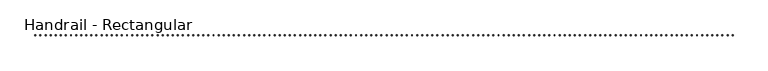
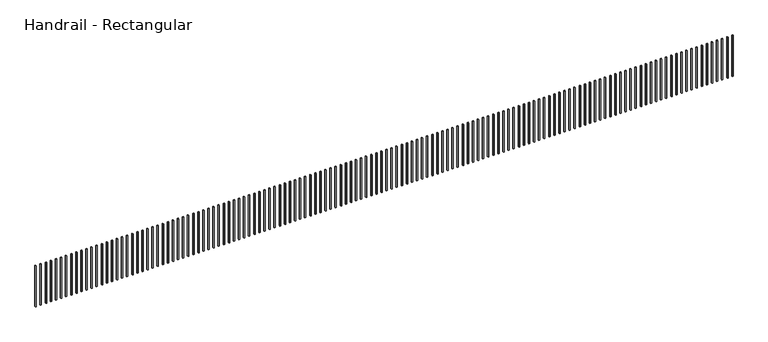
"""IFC4 building model written with IfcOpenShell, lengths in millimetres: railing geometry, Handrail - Rectangular."""

from ifc_helpers import new_model, si_unit, frame, origin, place, context, project, spatial, polyline, outline, extrude, source, transform, mapped, element, save


def handrail_rectangular_f3f7196c(model_context):
    return source(origin(), model_context, "Body", "SweptSolid", [
        extrude(outline(polyline([(15541.5691649, 4066.7725872), (15541.5691649, 4085.8225872), (15560.6191649, 4085.8225872), (15560.6191649, 4066.7725872), (15541.5691649, 4066.7725872)])), frame((0.0, 0.0, 3657.6), z_axis=(0.0, 0.0, 1.0), x_axis=(1.0, 0.0, 0.0)), (0.0, 0.0, 1.0), 863.6),
        extrude(outline(polyline([(15439.9691649, 4066.7725872), (15439.9691649, 4085.8225872), (15459.0191649, 4085.8225872), (15459.0191649, 4066.7725872), (15439.9691649, 4066.7725872)])), frame((0.0, 0.0, 3657.6), z_axis=(0.0, 0.0, 1.0), x_axis=(1.0, 0.0, 0.0)), (0.0, 0.0, 1.0), 863.6),
        extrude(outline(polyline([(15338.3691649, 4066.7725872), (15338.3691649, 4085.8225872), (15357.4191649, 4085.8225872), (15357.4191649, 4066.7725872), (15338.3691649, 4066.7725872)])), frame((0.0, 0.0, 3657.6), z_axis=(0.0, 0.0, 1.0), x_axis=(1.0, 0.0, 0.0)), (0.0, 0.0, 1.0), 863.6),
        extrude(outline(polyline([(15236.7691649, 4066.7725872), (15236.7691649, 4085.8225872), (15255.8191649, 4085.8225872), (15255.8191649, 4066.7725872), (15236.7691649, 4066.7725872)])), frame((0.0, 0.0, 3657.6), z_axis=(0.0, 0.0, 1.0), x_axis=(1.0, 0.0, 0.0)), (0.0, 0.0, 1.0), 863.6),
        extrude(outline(polyline([(15135.1691649, 4066.7725872), (15135.1691649, 4085.8225872), (15154.2191649, 4085.8225872), (15154.2191649, 4066.7725872), (15135.1691649, 4066.7725872)])), frame((0.0, 0.0, 3657.6), z_axis=(0.0, 0.0, 1.0), x_axis=(1.0, 0.0, 0.0)), (0.0, 0.0, 1.0), 863.6),
        extrude(outline(polyline([(15033.5691649, 4066.7725872), (15033.5691649, 4085.8225872), (15052.6191649, 4085.8225872), (15052.6191649, 4066.7725872), (15033.5691649, 4066.7725872)])), frame((0.0, 0.0, 3657.6), z_axis=(0.0, 0.0, 1.0), x_axis=(1.0, 0.0, 0.0)), (0.0, 0.0, 1.0), 863.6),
        extrude(outline(polyline([(14931.9691649, 4066.7725872), (14931.9691649, 4085.8225872), (14951.0191649, 4085.8225872), (14951.0191649, 4066.7725872), (14931.9691649, 4066.7725872)])), frame((0.0, 0.0, 3657.6), z_axis=(0.0, 0.0, 1.0), x_axis=(1.0, 0.0, 0.0)), (0.0, 0.0, 1.0), 863.6),
        extrude(outline(polyline([(14830.3691649, 4066.7725872), (14830.3691649, 4085.8225872), (14849.4191649, 4085.8225872), (14849.4191649, 4066.7725872), (14830.3691649, 4066.7725872)])), frame((0.0, 0.0, 3657.6), z_axis=(0.0, 0.0, 1.0), x_axis=(1.0, 0.0, 0.0)), (0.0, 0.0, 1.0), 863.6),
        extrude(outline(polyline([(14728.7691649, 4066.7725872), (14728.7691649, 4085.8225872), (14747.8191649, 4085.8225872), (14747.8191649, 4066.7725872), (14728.7691649, 4066.7725872)])), frame((0.0, 0.0, 3657.6), z_axis=(0.0, 0.0, 1.0), x_axis=(1.0, 0.0, 0.0)), (0.0, 0.0, 1.0), 863.6),
        extrude(outline(polyline([(14627.1691649, 4066.7725872), (14627.1691649, 4085.8225872), (14646.2191649, 4085.8225872), (14646.2191649, 4066.7725872), (14627.1691649, 4066.7725872)])), frame((0.0, 0.0, 3657.6), z_axis=(0.0, 0.0, 1.0), x_axis=(1.0, 0.0, 0.0)), (0.0, 0.0, 1.0), 863.6),
        extrude(outline(polyline([(14525.5691649, 4066.7725872), (14525.5691649, 4085.8225872), (14544.6191649, 4085.8225872), (14544.6191649, 4066.7725872), (14525.5691649, 4066.7725872)])), frame((0.0, 0.0, 3657.6), z_axis=(0.0, 0.0, 1.0), x_axis=(1.0, 0.0, 0.0)), (0.0, 0.0, 1.0), 863.6),
        extrude(outline(polyline([(14423.9691649, 4066.7725872), (14423.9691649, 4085.8225872), (14443.0191649, 4085.8225872), (14443.0191649, 4066.7725872), (14423.9691649, 4066.7725872)])), frame((0.0, 0.0, 3657.6), z_axis=(0.0, 0.0, 1.0), x_axis=(1.0, 0.0, 0.0)), (0.0, 0.0, 1.0), 863.6),
        extrude(outline(polyline([(14322.3691649, 4066.7725872), (14322.3691649, 4085.8225872), (14341.4191649, 4085.8225872), (14341.4191649, 4066.7725872), (14322.3691649, 4066.7725872)])), frame((0.0, 0.0, 3657.6), z_axis=(0.0, 0.0, 1.0), x_axis=(1.0, 0.0, 0.0)), (0.0, 0.0, 1.0), 863.6),
        extrude(outline(polyline([(14220.7691649, 4066.7725872), (14220.7691649, 4085.8225872), (14239.8191649, 4085.8225872), (14239.8191649, 4066.7725872), (14220.7691649, 4066.7725872)])), frame((0.0, 0.0, 3657.6), z_axis=(0.0, 0.0, 1.0), x_axis=(1.0, 0.0, 0.0)), (0.0, 0.0, 1.0), 863.6),
        extrude(outline(polyline([(14119.1691649, 4066.7725872), (14119.1691649, 4085.8225872), (14138.2191649, 4085.8225872), (14138.2191649, 4066.7725872), (14119.1691649, 4066.7725872)])), frame((0.0, 0.0, 3657.6), z_axis=(0.0, 0.0, 1.0), x_axis=(1.0, 0.0, 0.0)), (0.0, 0.0, 1.0), 863.6),
        extrude(outline(polyline([(14017.5691649, 4066.7725872), (14017.5691649, 4085.8225872), (14036.6191649, 4085.8225872), (14036.6191649, 4066.7725872), (14017.5691649, 4066.7725872)])), frame((0.0, 0.0, 3657.6), z_axis=(0.0, 0.0, 1.0), x_axis=(1.0, 0.0, 0.0)), (0.0, 0.0, 1.0), 863.6),
        extrude(outline(polyline([(13915.9691649, 4066.7725872), (13915.9691649, 4085.8225872), (13935.0191649, 4085.8225872), (13935.0191649, 4066.7725872), (13915.9691649, 4066.7725872)])), frame((0.0, 0.0, 3657.6), z_axis=(0.0, 0.0, 1.0), x_axis=(1.0, 0.0, 0.0)), (0.0, 0.0, 1.0), 863.6),
        extrude(outline(polyline([(13814.3691649, 4066.7725872), (13814.3691649, 4085.8225872), (13833.4191649, 4085.8225872), (13833.4191649, 4066.7725872), (13814.3691649, 4066.7725872)])), frame((0.0, 0.0, 3657.6), z_axis=(0.0, 0.0, 1.0), x_axis=(1.0, 0.0, 0.0)), (0.0, 0.0, 1.0), 863.6),
        extrude(outline(polyline([(13712.7691649, 4066.7725872), (13712.7691649, 4085.8225872), (13731.8191649, 4085.8225872), (13731.8191649, 4066.7725872), (13712.7691649, 4066.7725872)])), frame((0.0, 0.0, 3657.6), z_axis=(0.0, 0.0, 1.0), x_axis=(1.0, 0.0, 0.0)), (0.0, 0.0, 1.0), 863.6),
        extrude(outline(polyline([(13611.1691649, 4066.7725872), (13611.1691649, 4085.8225872), (13630.2191649, 4085.8225872), (13630.2191649, 4066.7725872), (13611.1691649, 4066.7725872)])), frame((0.0, 0.0, 3657.6), z_axis=(0.0, 0.0, 1.0), x_axis=(1.0, 0.0, 0.0)), (0.0, 0.0, 1.0), 863.6),
        extrude(outline(polyline([(13509.5691649, 4066.7725872), (13509.5691649, 4085.8225872), (13528.6191649, 4085.8225872), (13528.6191649, 4066.7725872), (13509.5691649, 4066.7725872)])), frame((0.0, 0.0, 3657.6), z_axis=(0.0, 0.0, 1.0), x_axis=(1.0, 0.0, 0.0)), (0.0, 0.0, 1.0), 863.6),
        extrude(outline(polyline([(13407.9691649, 4066.7725872), (13407.9691649, 4085.8225872), (13427.0191649, 4085.8225872), (13427.0191649, 4066.7725872), (13407.9691649, 4066.7725872)])), frame((0.0, 0.0, 3657.6), z_axis=(0.0, 0.0, 1.0), x_axis=(1.0, 0.0, 0.0)), (0.0, 0.0, 1.0), 863.6),
        extrude(outline(polyline([(13306.3691649, 4066.7725872), (13306.3691649, 4085.8225872), (13325.4191649, 4085.8225872), (13325.4191649, 4066.7725872), (13306.3691649, 4066.7725872)])), frame((0.0, 0.0, 3657.6), z_axis=(0.0, 0.0, 1.0), x_axis=(1.0, 0.0, 0.0)), (0.0, 0.0, 1.0), 863.6),
        extrude(outline(polyline([(13204.7691649, 4066.7725872), (13204.7691649, 4085.8225872), (13223.8191649, 4085.8225872), (13223.8191649, 4066.7725872), (13204.7691649, 4066.7725872)])), frame((0.0, 0.0, 3657.6), z_axis=(0.0, 0.0, 1.0), x_axis=(1.0, 0.0, 0.0)), (0.0, 0.0, 1.0), 863.6),
        extrude(outline(polyline([(13103.1691649, 4066.7725872), (13103.1691649, 4085.8225872), (13122.2191649, 4085.8225872), (13122.2191649, 4066.7725872), (13103.1691649, 4066.7725872)])), frame((0.0, 0.0, 3657.6), z_axis=(0.0, 0.0, 1.0), x_axis=(1.0, 0.0, 0.0)), (0.0, 0.0, 1.0), 863.6),
        extrude(outline(polyline([(13001.5691649, 4066.7725872), (13001.5691649, 4085.8225872), (13020.6191649, 4085.8225872), (13020.6191649, 4066.7725872), (13001.5691649, 4066.7725872)])), frame((0.0, 0.0, 3657.6), z_axis=(0.0, 0.0, 1.0), x_axis=(1.0, 0.0, 0.0)), (0.0, 0.0, 1.0), 863.6),
        extrude(outline(polyline([(12899.9691649, 4066.7725872), (12899.9691649, 4085.8225872), (12919.0191649, 4085.8225872), (12919.0191649, 4066.7725872), (12899.9691649, 4066.7725872)])), frame((0.0, 0.0, 3657.6), z_axis=(0.0, 0.0, 1.0), x_axis=(1.0, 0.0, 0.0)), (0.0, 0.0, 1.0), 863.6),
        extrude(outline(polyline([(12798.3691649, 4066.7725872), (12798.3691649, 4085.8225872), (12817.4191649, 4085.8225872), (12817.4191649, 4066.7725872), (12798.3691649, 4066.7725872)])), frame((0.0, 0.0, 3657.6), z_axis=(0.0, 0.0, 1.0), x_axis=(1.0, 0.0, 0.0)), (0.0, 0.0, 1.0), 863.6),
        extrude(outline(polyline([(12696.7691649, 4066.7725872), (12696.7691649, 4085.8225872), (12715.8191649, 4085.8225872), (12715.8191649, 4066.7725872), (12696.7691649, 4066.7725872)])), frame((0.0, 0.0, 3657.6), z_axis=(0.0, 0.0, 1.0), x_axis=(1.0, 0.0, 0.0)), (0.0, 0.0, 1.0), 863.6),
        extrude(outline(polyline([(12595.1691649, 4066.7725872), (12595.1691649, 4085.8225872), (12614.2191649, 4085.8225872), (12614.2191649, 4066.7725872), (12595.1691649, 4066.7725872)])), frame((0.0, 0.0, 3657.6), z_axis=(0.0, 0.0, 1.0), x_axis=(1.0, 0.0, 0.0)), (0.0, 0.0, 1.0), 863.6),
        extrude(outline(polyline([(12493.5691649, 4066.7725872), (12493.5691649, 4085.8225872), (12512.6191649, 4085.8225872), (12512.6191649, 4066.7725872), (12493.5691649, 4066.7725872)])), frame((0.0, 0.0, 3657.6), z_axis=(0.0, 0.0, 1.0), x_axis=(1.0, 0.0, 0.0)), (0.0, 0.0, 1.0), 863.6),
        extrude(outline(polyline([(12391.9691649, 4066.7725872), (12391.9691649, 4085.8225872), (12411.0191649, 4085.8225872), (12411.0191649, 4066.7725872), (12391.9691649, 4066.7725872)])), frame((0.0, 0.0, 3657.6), z_axis=(0.0, 0.0, 1.0), x_axis=(1.0, 0.0, 0.0)), (0.0, 0.0, 1.0), 863.6),
        extrude(outline(polyline([(12290.3691649, 4066.7725872), (12290.3691649, 4085.8225872), (12309.4191649, 4085.8225872), (12309.4191649, 4066.7725872), (12290.3691649, 4066.7725872)])), frame((0.0, 0.0, 3657.6), z_axis=(0.0, 0.0, 1.0), x_axis=(1.0, 0.0, 0.0)), (0.0, 0.0, 1.0), 863.6),
        extrude(outline(polyline([(12188.7691649, 4066.7725872), (12188.7691649, 4085.8225872), (12207.8191649, 4085.8225872), (12207.8191649, 4066.7725872), (12188.7691649, 4066.7725872)])), frame((0.0, 0.0, 3657.6), z_axis=(0.0, 0.0, 1.0), x_axis=(1.0, 0.0, 0.0)), (0.0, 0.0, 1.0), 863.6),
        extrude(outline(polyline([(12087.1691649, 4066.7725872), (12087.1691649, 4085.8225872), (12106.2191649, 4085.8225872), (12106.2191649, 4066.7725872), (12087.1691649, 4066.7725872)])), frame((0.0, 0.0, 3657.6), z_axis=(0.0, 0.0, 1.0), x_axis=(1.0, 0.0, 0.0)), (0.0, 0.0, 1.0), 863.6),
        extrude(outline(polyline([(11985.5691649, 4066.7725872), (11985.5691649, 4085.8225872), (12004.6191649, 4085.8225872), (12004.6191649, 4066.7725872), (11985.5691649, 4066.7725872)])), frame((0.0, 0.0, 3657.6), z_axis=(0.0, 0.0, 1.0), x_axis=(1.0, 0.0, 0.0)), (0.0, 0.0, 1.0), 863.6),
        extrude(outline(polyline([(11883.9691649, 4066.7725872), (11883.9691649, 4085.8225872), (11903.0191649, 4085.8225872), (11903.0191649, 4066.7725872), (11883.9691649, 4066.7725872)])), frame((0.0, 0.0, 3657.6), z_axis=(0.0, 0.0, 1.0), x_axis=(1.0, 0.0, 0.0)), (0.0, 0.0, 1.0), 863.6),
        extrude(outline(polyline([(11782.3691649, 4066.7725872), (11782.3691649, 4085.8225872), (11801.4191649, 4085.8225872), (11801.4191649, 4066.7725872), (11782.3691649, 4066.7725872)])), frame((0.0, 0.0, 3657.6), z_axis=(0.0, 0.0, 1.0), x_axis=(1.0, 0.0, 0.0)), (0.0, 0.0, 1.0), 863.6),
        extrude(outline(polyline([(11680.7691649, 4066.7725872), (11680.7691649, 4085.8225872), (11699.8191649, 4085.8225872), (11699.8191649, 4066.7725872), (11680.7691649, 4066.7725872)])), frame((0.0, 0.0, 3657.6), z_axis=(0.0, 0.0, 1.0), x_axis=(1.0, 0.0, 0.0)), (0.0, 0.0, 1.0), 863.6),
        extrude(outline(polyline([(11579.1691649, 4066.7725872), (11579.1691649, 4085.8225872), (11598.2191649, 4085.8225872), (11598.2191649, 4066.7725872), (11579.1691649, 4066.7725872)])), frame((0.0, 0.0, 3657.6), z_axis=(0.0, 0.0, 1.0), x_axis=(1.0, 0.0, 0.0)), (0.0, 0.0, 1.0), 863.6),
        extrude(outline(polyline([(11477.5691649, 4066.7725872), (11477.5691649, 4085.8225872), (11496.6191649, 4085.8225872), (11496.6191649, 4066.7725872), (11477.5691649, 4066.7725872)])), frame((0.0, 0.0, 3657.6), z_axis=(0.0, 0.0, 1.0), x_axis=(1.0, 0.0, 0.0)), (0.0, 0.0, 1.0), 863.6),
        extrude(outline(polyline([(11375.9691649, 4066.7725872), (11375.9691649, 4085.8225872), (11395.0191649, 4085.8225872), (11395.0191649, 4066.7725872), (11375.9691649, 4066.7725872)])), frame((0.0, 0.0, 3657.6), z_axis=(0.0, 0.0, 1.0), x_axis=(1.0, 0.0, 0.0)), (0.0, 0.0, 1.0), 863.6),
        extrude(outline(polyline([(11274.3691649, 4066.7725872), (11274.3691649, 4085.8225872), (11293.4191649, 4085.8225872), (11293.4191649, 4066.7725872), (11274.3691649, 4066.7725872)])), frame((0.0, 0.0, 3657.6), z_axis=(0.0, 0.0, 1.0), x_axis=(1.0, 0.0, 0.0)), (0.0, 0.0, 1.0), 863.6),
        extrude(outline(polyline([(11172.7691649, 4066.7725872), (11172.7691649, 4085.8225872), (11191.8191649, 4085.8225872), (11191.8191649, 4066.7725872), (11172.7691649, 4066.7725872)])), frame((0.0, 0.0, 3657.6), z_axis=(0.0, 0.0, 1.0), x_axis=(1.0, 0.0, 0.0)), (0.0, 0.0, 1.0), 863.6),
        extrude(outline(polyline([(11071.1691649, 4066.7725872), (11071.1691649, 4085.8225872), (11090.2191649, 4085.8225872), (11090.2191649, 4066.7725872), (11071.1691649, 4066.7725872)])), frame((0.0, 0.0, 3657.6), z_axis=(0.0, 0.0, 1.0), x_axis=(1.0, 0.0, 0.0)), (0.0, 0.0, 1.0), 863.6),
        extrude(outline(polyline([(10969.5691649, 4066.7725872), (10969.5691649, 4085.8225872), (10988.6191649, 4085.8225872), (10988.6191649, 4066.7725872), (10969.5691649, 4066.7725872)])), frame((0.0, 0.0, 3657.6), z_axis=(0.0, 0.0, 1.0), x_axis=(1.0, 0.0, 0.0)), (0.0, 0.0, 1.0), 863.6),
        extrude(outline(polyline([(10867.9691649, 4066.7725872), (10867.9691649, 4085.8225872), (10887.0191649, 4085.8225872), (10887.0191649, 4066.7725872), (10867.9691649, 4066.7725872)])), frame((0.0, 0.0, 3657.6), z_axis=(0.0, 0.0, 1.0), x_axis=(1.0, 0.0, 0.0)), (0.0, 0.0, 1.0), 863.6),
        extrude(outline(polyline([(10766.3691649, 4066.7725872), (10766.3691649, 4085.8225872), (10785.4191649, 4085.8225872), (10785.4191649, 4066.7725872), (10766.3691649, 4066.7725872)])), frame((0.0, 0.0, 3657.6), z_axis=(0.0, 0.0, 1.0), x_axis=(1.0, 0.0, 0.0)), (0.0, 0.0, 1.0), 863.6),
        extrude(outline(polyline([(10664.7691649, 4066.7725872), (10664.7691649, 4085.8225872), (10683.8191649, 4085.8225872), (10683.8191649, 4066.7725872), (10664.7691649, 4066.7725872)])), frame((0.0, 0.0, 3657.6), z_axis=(0.0, 0.0, 1.0), x_axis=(1.0, 0.0, 0.0)), (0.0, 0.0, 1.0), 863.6),
        extrude(outline(polyline([(10563.1691649, 4066.7725872), (10563.1691649, 4085.8225872), (10582.2191649, 4085.8225872), (10582.2191649, 4066.7725872), (10563.1691649, 4066.7725872)])), frame((0.0, 0.0, 3657.6), z_axis=(0.0, 0.0, 1.0), x_axis=(1.0, 0.0, 0.0)), (0.0, 0.0, 1.0), 863.6),
        extrude(outline(polyline([(10461.5691649, 4066.7725872), (10461.5691649, 4085.8225872), (10480.6191649, 4085.8225872), (10480.6191649, 4066.7725872), (10461.5691649, 4066.7725872)])), frame((0.0, 0.0, 3657.6), z_axis=(0.0, 0.0, 1.0), x_axis=(1.0, 0.0, 0.0)), (0.0, 0.0, 1.0), 863.6),
        extrude(outline(polyline([(10359.9691649, 4066.7725872), (10359.9691649, 4085.8225872), (10379.0191649, 4085.8225872), (10379.0191649, 4066.7725872), (10359.9691649, 4066.7725872)])), frame((0.0, 0.0, 3657.6), z_axis=(0.0, 0.0, 1.0), x_axis=(1.0, 0.0, 0.0)), (0.0, 0.0, 1.0), 863.6),
        extrude(outline(polyline([(10258.3691649, 4066.7725872), (10258.3691649, 4085.8225872), (10277.4191649, 4085.8225872), (10277.4191649, 4066.7725872), (10258.3691649, 4066.7725872)])), frame((0.0, 0.0, 3657.6), z_axis=(0.0, 0.0, 1.0), x_axis=(1.0, 0.0, 0.0)), (0.0, 0.0, 1.0), 863.6),
        extrude(outline(polyline([(10156.7691649, 4066.7725872), (10156.7691649, 4085.8225872), (10175.8191649, 4085.8225872), (10175.8191649, 4066.7725872), (10156.7691649, 4066.7725872)])), frame((0.0, 0.0, 3657.6), z_axis=(0.0, 0.0, 1.0), x_axis=(1.0, 0.0, 0.0)), (0.0, 0.0, 1.0), 863.6),
        extrude(outline(polyline([(10055.1691649, 4066.7725872), (10055.1691649, 4085.8225872), (10074.2191649, 4085.8225872), (10074.2191649, 4066.7725872), (10055.1691649, 4066.7725872)])), frame((0.0, 0.0, 3657.6), z_axis=(0.0, 0.0, 1.0), x_axis=(1.0, 0.0, 0.0)), (0.0, 0.0, 1.0), 863.6),
        extrude(outline(polyline([(9953.5691649, 4066.7725872), (9953.5691649, 4085.8225872), (9972.6191649, 4085.8225872), (9972.6191649, 4066.7725872), (9953.5691649, 4066.7725872)])), frame((0.0, 0.0, 3657.6), z_axis=(0.0, 0.0, 1.0), x_axis=(1.0, 0.0, 0.0)), (0.0, 0.0, 1.0), 863.6),
        extrude(outline(polyline([(9851.9691649, 4066.7725872), (9851.9691649, 4085.8225872), (9871.0191649, 4085.8225872), (9871.0191649, 4066.7725872), (9851.9691649, 4066.7725872)])), frame((0.0, 0.0, 3657.6), z_axis=(0.0, 0.0, 1.0), x_axis=(1.0, 0.0, 0.0)), (0.0, 0.0, 1.0), 863.6),
        extrude(outline(polyline([(9750.3691649, 4066.7725872), (9750.3691649, 4085.8225872), (9769.4191649, 4085.8225872), (9769.4191649, 4066.7725872), (9750.3691649, 4066.7725872)])), frame((0.0, 0.0, 3657.6), z_axis=(0.0, 0.0, 1.0), x_axis=(1.0, 0.0, 0.0)), (0.0, 0.0, 1.0), 863.6),
        extrude(outline(polyline([(9648.7691649, 4066.7725872), (9648.7691649, 4085.8225872), (9667.8191649, 4085.8225872), (9667.8191649, 4066.7725872), (9648.7691649, 4066.7725872)])), frame((0.0, 0.0, 3657.6), z_axis=(0.0, 0.0, 1.0), x_axis=(1.0, 0.0, 0.0)), (0.0, 0.0, 1.0), 863.6),
        extrude(outline(polyline([(9547.1691649, 4066.7725872), (9547.1691649, 4085.8225872), (9566.2191649, 4085.8225872), (9566.2191649, 4066.7725872), (9547.1691649, 4066.7725872)])), frame((0.0, 0.0, 3657.6), z_axis=(0.0, 0.0, 1.0), x_axis=(1.0, 0.0, 0.0)), (0.0, 0.0, 1.0), 863.6),
        extrude(outline(polyline([(9445.5691649, 4066.7725872), (9445.5691649, 4085.8225872), (9464.6191649, 4085.8225872), (9464.6191649, 4066.7725872), (9445.5691649, 4066.7725872)])), frame((0.0, 0.0, 3657.6), z_axis=(0.0, 0.0, 1.0), x_axis=(1.0, 0.0, 0.0)), (0.0, 0.0, 1.0), 863.6),
        extrude(outline(polyline([(9343.9691649, 4066.7725872), (9343.9691649, 4085.8225872), (9363.0191649, 4085.8225872), (9363.0191649, 4066.7725872), (9343.9691649, 4066.7725872)])), frame((0.0, 0.0, 3657.6), z_axis=(0.0, 0.0, 1.0), x_axis=(1.0, 0.0, 0.0)), (0.0, 0.0, 1.0), 863.6),
        extrude(outline(polyline([(9242.3691649, 4066.7725872), (9242.3691649, 4085.8225872), (9261.4191649, 4085.8225872), (9261.4191649, 4066.7725872), (9242.3691649, 4066.7725872)])), frame((0.0, 0.0, 3657.6), z_axis=(0.0, 0.0, 1.0), x_axis=(1.0, 0.0, 0.0)), (0.0, 0.0, 1.0), 863.6),
        extrude(outline(polyline([(9140.7691649, 4066.7725872), (9140.7691649, 4085.8225872), (9159.8191649, 4085.8225872), (9159.8191649, 4066.7725872), (9140.7691649, 4066.7725872)])), frame((0.0, 0.0, 3657.6), z_axis=(0.0, 0.0, 1.0), x_axis=(1.0, 0.0, 0.0)), (0.0, 0.0, 1.0), 863.6),
        extrude(outline(polyline([(9039.1691649, 4066.7725872), (9039.1691649, 4085.8225872), (9058.2191649, 4085.8225872), (9058.2191649, 4066.7725872), (9039.1691649, 4066.7725872)])), frame((0.0, 0.0, 3657.6), z_axis=(0.0, 0.0, 1.0), x_axis=(1.0, 0.0, 0.0)), (0.0, 0.0, 1.0), 863.6),
        extrude(outline(polyline([(8937.5691649, 4066.7725872), (8937.5691649, 4085.8225872), (8956.6191649, 4085.8225872), (8956.6191649, 4066.7725872), (8937.5691649, 4066.7725872)])), frame((0.0, 0.0, 3657.6), z_axis=(0.0, 0.0, 1.0), x_axis=(1.0, 0.0, 0.0)), (0.0, 0.0, 1.0), 863.6),
        extrude(outline(polyline([(8835.9691649, 4066.7725872), (8835.9691649, 4085.8225872), (8855.0191649, 4085.8225872), (8855.0191649, 4066.7725872), (8835.9691649, 4066.7725872)])), frame((0.0, 0.0, 3657.6), z_axis=(0.0, 0.0, 1.0), x_axis=(1.0, 0.0, 0.0)), (0.0, 0.0, 1.0), 863.6),
        extrude(outline(polyline([(8734.3691649, 4066.7725872), (8734.3691649, 4085.8225872), (8753.4191649, 4085.8225872), (8753.4191649, 4066.7725872), (8734.3691649, 4066.7725872)])), frame((0.0, 0.0, 3657.6), z_axis=(0.0, 0.0, 1.0), x_axis=(1.0, 0.0, 0.0)), (0.0, 0.0, 1.0), 863.6),
        extrude(outline(polyline([(8632.7691649, 4066.7725872), (8632.7691649, 4085.8225872), (8651.8191649, 4085.8225872), (8651.8191649, 4066.7725872), (8632.7691649, 4066.7725872)])), frame((0.0, 0.0, 3657.6), z_axis=(0.0, 0.0, 1.0), x_axis=(1.0, 0.0, 0.0)), (0.0, 0.0, 1.0), 863.6),
        extrude(outline(polyline([(8531.1691649, 4066.7725872), (8531.1691649, 4085.8225872), (8550.2191649, 4085.8225872), (8550.2191649, 4066.7725872), (8531.1691649, 4066.7725872)])), frame((0.0, 0.0, 3657.6), z_axis=(0.0, 0.0, 1.0), x_axis=(1.0, 0.0, 0.0)), (0.0, 0.0, 1.0), 863.6),
        extrude(outline(polyline([(8429.5691649, 4066.7725872), (8429.5691649, 4085.8225872), (8448.6191649, 4085.8225872), (8448.6191649, 4066.7725872), (8429.5691649, 4066.7725872)])), frame((0.0, 0.0, 3657.6), z_axis=(0.0, 0.0, 1.0), x_axis=(1.0, 0.0, 0.0)), (0.0, 0.0, 1.0), 863.6),
        extrude(outline(polyline([(8327.9691649, 4066.7725872), (8327.9691649, 4085.8225872), (8347.0191649, 4085.8225872), (8347.0191649, 4066.7725872), (8327.9691649, 4066.7725872)])), frame((0.0, 0.0, 3657.6), z_axis=(0.0, 0.0, 1.0), x_axis=(1.0, 0.0, 0.0)), (0.0, 0.0, 1.0), 863.6),
        extrude(outline(polyline([(8226.3691649, 4066.7725872), (8226.3691649, 4085.8225872), (8245.4191649, 4085.8225872), (8245.4191649, 4066.7725872), (8226.3691649, 4066.7725872)])), frame((0.0, 0.0, 3657.6), z_axis=(0.0, 0.0, 1.0), x_axis=(1.0, 0.0, 0.0)), (0.0, 0.0, 1.0), 863.6),
        extrude(outline(polyline([(8124.7691649, 4066.7725872), (8124.7691649, 4085.8225872), (8143.8191649, 4085.8225872), (8143.8191649, 4066.7725872), (8124.7691649, 4066.7725872)])), frame((0.0, 0.0, 3657.6), z_axis=(0.0, 0.0, 1.0), x_axis=(1.0, 0.0, 0.0)), (0.0, 0.0, 1.0), 863.6),
        extrude(outline(polyline([(8023.1691649, 4066.7725872), (8023.1691649, 4085.8225872), (8042.2191649, 4085.8225872), (8042.2191649, 4066.7725872), (8023.1691649, 4066.7725872)])), frame((0.0, 0.0, 3657.6), z_axis=(0.0, 0.0, 1.0), x_axis=(1.0, 0.0, 0.0)), (0.0, 0.0, 1.0), 863.6),
        extrude(outline(polyline([(7921.5691649, 4066.7725872), (7921.5691649, 4085.8225872), (7940.6191649, 4085.8225872), (7940.6191649, 4066.7725872), (7921.5691649, 4066.7725872)])), frame((0.0, 0.0, 3657.6), z_axis=(0.0, 0.0, 1.0), x_axis=(1.0, 0.0, 0.0)), (0.0, 0.0, 1.0), 863.6),
        extrude(outline(polyline([(7819.9691649, 4066.7725872), (7819.9691649, 4085.8225872), (7839.0191649, 4085.8225872), (7839.0191649, 4066.7725872), (7819.9691649, 4066.7725872)])), frame((0.0, 0.0, 3657.6), z_axis=(0.0, 0.0, 1.0), x_axis=(1.0, 0.0, 0.0)), (0.0, 0.0, 1.0), 863.6),
        extrude(outline(polyline([(7718.3691649, 4066.7725872), (7718.3691649, 4085.8225872), (7737.4191649, 4085.8225872), (7737.4191649, 4066.7725872), (7718.3691649, 4066.7725872)])), frame((0.0, 0.0, 3657.6), z_axis=(0.0, 0.0, 1.0), x_axis=(1.0, 0.0, 0.0)), (0.0, 0.0, 1.0), 863.6),
        extrude(outline(polyline([(7616.7691649, 4066.7725872), (7616.7691649, 4085.8225872), (7635.8191649, 4085.8225872), (7635.8191649, 4066.7725872), (7616.7691649, 4066.7725872)])), frame((0.0, 0.0, 3657.6), z_axis=(0.0, 0.0, 1.0), x_axis=(1.0, 0.0, 0.0)), (0.0, 0.0, 1.0), 863.6),
        extrude(outline(polyline([(7515.1691649, 4066.7725872), (7515.1691649, 4085.8225872), (7534.2191649, 4085.8225872), (7534.2191649, 4066.7725872), (7515.1691649, 4066.7725872)])), frame((0.0, 0.0, 3657.6), z_axis=(0.0, 0.0, 1.0), x_axis=(1.0, 0.0, 0.0)), (0.0, 0.0, 1.0), 863.6),
        extrude(outline(polyline([(7413.5691649, 4066.7725872), (7413.5691649, 4085.8225872), (7432.6191649, 4085.8225872), (7432.6191649, 4066.7725872), (7413.5691649, 4066.7725872)])), frame((0.0, 0.0, 3657.6), z_axis=(0.0, 0.0, 1.0), x_axis=(1.0, 0.0, 0.0)), (0.0, 0.0, 1.0), 863.6),
        extrude(outline(polyline([(7311.9691649, 4066.7725872), (7311.9691649, 4085.8225872), (7331.0191649, 4085.8225872), (7331.0191649, 4066.7725872), (7311.9691649, 4066.7725872)])), frame((0.0, 0.0, 3657.6), z_axis=(0.0, 0.0, 1.0), x_axis=(1.0, 0.0, 0.0)), (0.0, 0.0, 1.0), 863.6),
        extrude(outline(polyline([(7210.3691649, 4066.7725872), (7210.3691649, 4085.8225872), (7229.4191649, 4085.8225872), (7229.4191649, 4066.7725872), (7210.3691649, 4066.7725872)])), frame((0.0, 0.0, 3657.6), z_axis=(0.0, 0.0, 1.0), x_axis=(1.0, 0.0, 0.0)), (0.0, 0.0, 1.0), 863.6),
        extrude(outline(polyline([(7108.7691649, 4066.7725872), (7108.7691649, 4085.8225872), (7127.8191649, 4085.8225872), (7127.8191649, 4066.7725872), (7108.7691649, 4066.7725872)])), frame((0.0, 0.0, 3657.6), z_axis=(0.0, 0.0, 1.0), x_axis=(1.0, 0.0, 0.0)), (0.0, 0.0, 1.0), 863.6),
        extrude(outline(polyline([(7007.1691649, 4066.7725872), (7007.1691649, 4085.8225872), (7026.2191649, 4085.8225872), (7026.2191649, 4066.7725872), (7007.1691649, 4066.7725872)])), frame((0.0, 0.0, 3657.6), z_axis=(0.0, 0.0, 1.0), x_axis=(1.0, 0.0, 0.0)), (0.0, 0.0, 1.0), 863.6),
        extrude(outline(polyline([(6905.5691649, 4066.7725872), (6905.5691649, 4085.8225872), (6924.6191649, 4085.8225872), (6924.6191649, 4066.7725872), (6905.5691649, 4066.7725872)])), frame((0.0, 0.0, 3657.6), z_axis=(0.0, 0.0, 1.0), x_axis=(1.0, 0.0, 0.0)), (0.0, 0.0, 1.0), 863.6),
        extrude(outline(polyline([(6803.9691649, 4066.7725872), (6803.9691649, 4085.8225872), (6823.0191649, 4085.8225872), (6823.0191649, 4066.7725872), (6803.9691649, 4066.7725872)])), frame((0.0, 0.0, 3657.6), z_axis=(0.0, 0.0, 1.0), x_axis=(1.0, 0.0, 0.0)), (0.0, 0.0, 1.0), 863.6),
        extrude(outline(polyline([(6702.3691649, 4066.7725872), (6702.3691649, 4085.8225872), (6721.4191649, 4085.8225872), (6721.4191649, 4066.7725872), (6702.3691649, 4066.7725872)])), frame((0.0, 0.0, 3657.6), z_axis=(0.0, 0.0, 1.0), x_axis=(1.0, 0.0, 0.0)), (0.0, 0.0, 1.0), 863.6),
        extrude(outline(polyline([(6600.7691649, 4066.7725872), (6600.7691649, 4085.8225872), (6619.8191649, 4085.8225872), (6619.8191649, 4066.7725872), (6600.7691649, 4066.7725872)])), frame((0.0, 0.0, 3657.6), z_axis=(0.0, 0.0, 1.0), x_axis=(1.0, 0.0, 0.0)), (0.0, 0.0, 1.0), 863.6),
        extrude(outline(polyline([(6499.1691649, 4066.7725872), (6499.1691649, 4085.8225872), (6518.2191649, 4085.8225872), (6518.2191649, 4066.7725872), (6499.1691649, 4066.7725872)])), frame((0.0, 0.0, 3657.6), z_axis=(0.0, 0.0, 1.0), x_axis=(1.0, 0.0, 0.0)), (0.0, 0.0, 1.0), 863.6),
        extrude(outline(polyline([(6397.5691649, 4066.7725872), (6397.5691649, 4085.8225872), (6416.6191649, 4085.8225872), (6416.6191649, 4066.7725872), (6397.5691649, 4066.7725872)])), frame((0.0, 0.0, 3657.6), z_axis=(0.0, 0.0, 1.0), x_axis=(1.0, 0.0, 0.0)), (0.0, 0.0, 1.0), 863.6),
        extrude(outline(polyline([(6295.9691649, 4066.7725872), (6295.9691649, 4085.8225872), (6315.0191649, 4085.8225872), (6315.0191649, 4066.7725872), (6295.9691649, 4066.7725872)])), frame((0.0, 0.0, 3657.6), z_axis=(0.0, 0.0, 1.0), x_axis=(1.0, 0.0, 0.0)), (0.0, 0.0, 1.0), 863.6),
        extrude(outline(polyline([(6194.3691649, 4066.7725872), (6194.3691649, 4085.8225872), (6213.4191649, 4085.8225872), (6213.4191649, 4066.7725872), (6194.3691649, 4066.7725872)])), frame((0.0, 0.0, 3657.6), z_axis=(0.0, 0.0, 1.0), x_axis=(1.0, 0.0, 0.0)), (0.0, 0.0, 1.0), 863.6),
        extrude(outline(polyline([(6092.7691649, 4066.7725872), (6092.7691649, 4085.8225872), (6111.8191649, 4085.8225872), (6111.8191649, 4066.7725872), (6092.7691649, 4066.7725872)])), frame((0.0, 0.0, 3657.6), z_axis=(0.0, 0.0, 1.0), x_axis=(1.0, 0.0, 0.0)), (0.0, 0.0, 1.0), 863.6),
        extrude(outline(polyline([(5991.1691649, 4066.7725872), (5991.1691649, 4085.8225872), (6010.2191649, 4085.8225872), (6010.2191649, 4066.7725872), (5991.1691649, 4066.7725872)])), frame((0.0, 0.0, 3657.6), z_axis=(0.0, 0.0, 1.0), x_axis=(1.0, 0.0, 0.0)), (0.0, 0.0, 1.0), 863.6),
        extrude(outline(polyline([(5889.5691649, 4066.7725872), (5889.5691649, 4085.8225872), (5908.6191649, 4085.8225872), (5908.6191649, 4066.7725872), (5889.5691649, 4066.7725872)])), frame((0.0, 0.0, 3657.6), z_axis=(0.0, 0.0, 1.0), x_axis=(1.0, 0.0, 0.0)), (0.0, 0.0, 1.0), 863.6),
        extrude(outline(polyline([(5787.9691649, 4066.7725872), (5787.9691649, 4085.8225872), (5807.0191649, 4085.8225872), (5807.0191649, 4066.7725872), (5787.9691649, 4066.7725872)])), frame((0.0, 0.0, 3657.6), z_axis=(0.0, 0.0, 1.0), x_axis=(1.0, 0.0, 0.0)), (0.0, 0.0, 1.0), 863.6),
        extrude(outline(polyline([(5686.3691649, 4066.7725872), (5686.3691649, 4085.8225872), (5705.4191649, 4085.8225872), (5705.4191649, 4066.7725872), (5686.3691649, 4066.7725872)])), frame((0.0, 0.0, 3657.6), z_axis=(0.0, 0.0, 1.0), x_axis=(1.0, 0.0, 0.0)), (0.0, 0.0, 1.0), 863.6),
        extrude(outline(polyline([(5584.7691649, 4066.7725872), (5584.7691649, 4085.8225872), (5603.8191649, 4085.8225872), (5603.8191649, 4066.7725872), (5584.7691649, 4066.7725872)])), frame((0.0, 0.0, 3657.6), z_axis=(0.0, 0.0, 1.0), x_axis=(1.0, 0.0, 0.0)), (0.0, 0.0, 1.0), 863.6),
        extrude(outline(polyline([(5483.1691649, 4066.7725872), (5483.1691649, 4085.8225872), (5502.2191649, 4085.8225872), (5502.2191649, 4066.7725872), (5483.1691649, 4066.7725872)])), frame((0.0, 0.0, 3657.6), z_axis=(0.0, 0.0, 1.0), x_axis=(1.0, 0.0, 0.0)), (0.0, 0.0, 1.0), 863.6),
        extrude(outline(polyline([(5381.5691649, 4066.7725872), (5381.5691649, 4085.8225872), (5400.6191649, 4085.8225872), (5400.6191649, 4066.7725872), (5381.5691649, 4066.7725872)])), frame((0.0, 0.0, 3657.6), z_axis=(0.0, 0.0, 1.0), x_axis=(1.0, 0.0, 0.0)), (0.0, 0.0, 1.0), 863.6),
        extrude(outline(polyline([(5279.9691649, 4066.7725872), (5279.9691649, 4085.8225872), (5299.0191649, 4085.8225872), (5299.0191649, 4066.7725872), (5279.9691649, 4066.7725872)])), frame((0.0, 0.0, 3657.6), z_axis=(0.0, 0.0, 1.0), x_axis=(1.0, 0.0, 0.0)), (0.0, 0.0, 1.0), 863.6),
        extrude(outline(polyline([(5178.3691649, 4066.7725872), (5178.3691649, 4085.8225872), (5197.4191649, 4085.8225872), (5197.4191649, 4066.7725872), (5178.3691649, 4066.7725872)])), frame((0.0, 0.0, 3657.6), z_axis=(0.0, 0.0, 1.0), x_axis=(1.0, 0.0, 0.0)), (0.0, 0.0, 1.0), 863.6),
        extrude(outline(polyline([(5076.7691649, 4066.7725872), (5076.7691649, 4085.8225872), (5095.8191649, 4085.8225872), (5095.8191649, 4066.7725872), (5076.7691649, 4066.7725872)])), frame((0.0, 0.0, 3657.6), z_axis=(0.0, 0.0, 1.0), x_axis=(1.0, 0.0, 0.0)), (0.0, 0.0, 1.0), 863.6),
        extrude(outline(polyline([(4975.1691649, 4066.7725872), (4975.1691649, 4085.8225872), (4994.2191649, 4085.8225872), (4994.2191649, 4066.7725872), (4975.1691649, 4066.7725872)])), frame((0.0, 0.0, 3657.6), z_axis=(0.0, 0.0, 1.0), x_axis=(1.0, 0.0, 0.0)), (0.0, 0.0, 1.0), 863.6),
        extrude(outline(polyline([(4873.5691649, 4066.7725872), (4873.5691649, 4085.8225872), (4892.6191649, 4085.8225872), (4892.6191649, 4066.7725872), (4873.5691649, 4066.7725872)])), frame((0.0, 0.0, 3657.6), z_axis=(0.0, 0.0, 1.0), x_axis=(1.0, 0.0, 0.0)), (0.0, 0.0, 1.0), 863.6),
        extrude(outline(polyline([(4771.9691649, 4066.7725872), (4771.9691649, 4085.8225872), (4791.0191649, 4085.8225872), (4791.0191649, 4066.7725872), (4771.9691649, 4066.7725872)])), frame((0.0, 0.0, 3657.6), z_axis=(0.0, 0.0, 1.0), x_axis=(1.0, 0.0, 0.0)), (0.0, 0.0, 1.0), 863.6),
        extrude(outline(polyline([(4670.3691649, 4066.7725872), (4670.3691649, 4085.8225872), (4689.4191649, 4085.8225872), (4689.4191649, 4066.7725872), (4670.3691649, 4066.7725872)])), frame((0.0, 0.0, 3657.6), z_axis=(0.0, 0.0, 1.0), x_axis=(1.0, 0.0, 0.0)), (0.0, 0.0, 1.0), 863.6),
        extrude(outline(polyline([(4568.7691649, 4066.7725872), (4568.7691649, 4085.8225872), (4587.8191649, 4085.8225872), (4587.8191649, 4066.7725872), (4568.7691649, 4066.7725872)])), frame((0.0, 0.0, 3657.6), z_axis=(0.0, 0.0, 1.0), x_axis=(1.0, 0.0, 0.0)), (0.0, 0.0, 1.0), 863.6),
        extrude(outline(polyline([(4467.1691649, 4066.7725872), (4467.1691649, 4085.8225872), (4486.2191649, 4085.8225872), (4486.2191649, 4066.7725872), (4467.1691649, 4066.7725872)])), frame((0.0, 0.0, 3657.6), z_axis=(0.0, 0.0, 1.0), x_axis=(1.0, 0.0, 0.0)), (0.0, 0.0, 1.0), 863.6),
        extrude(outline(polyline([(4365.5691649, 4066.7725872), (4365.5691649, 4085.8225872), (4384.6191649, 4085.8225872), (4384.6191649, 4066.7725872), (4365.5691649, 4066.7725872)])), frame((0.0, 0.0, 3657.6), z_axis=(0.0, 0.0, 1.0), x_axis=(1.0, 0.0, 0.0)), (0.0, 0.0, 1.0), 863.6),
        extrude(outline(polyline([(4263.9691649, 4066.7725872), (4263.9691649, 4085.8225872), (4283.0191649, 4085.8225872), (4283.0191649, 4066.7725872), (4263.9691649, 4066.7725872)])), frame((0.0, 0.0, 3657.6), z_axis=(0.0, 0.0, 1.0), x_axis=(1.0, 0.0, 0.0)), (0.0, 0.0, 1.0), 863.6),
        extrude(outline(polyline([(4162.3691649, 4066.7725872), (4162.3691649, 4085.8225872), (4181.4191649, 4085.8225872), (4181.4191649, 4066.7725872), (4162.3691649, 4066.7725872)])), frame((0.0, 0.0, 3657.6), z_axis=(0.0, 0.0, 1.0), x_axis=(1.0, 0.0, 0.0)), (0.0, 0.0, 1.0), 863.6),
        extrude(outline(polyline([(4060.7691649, 4066.7725872), (4060.7691649, 4085.8225872), (4079.8191649, 4085.8225872), (4079.8191649, 4066.7725872), (4060.7691649, 4066.7725872)])), frame((0.0, 0.0, 3657.6), z_axis=(0.0, 0.0, 1.0), x_axis=(1.0, 0.0, 0.0)), (0.0, 0.0, 1.0), 863.6),
        extrude(outline(polyline([(3959.1691649, 4066.7725872), (3959.1691649, 4085.8225872), (3978.2191649, 4085.8225872), (3978.2191649, 4066.7725872), (3959.1691649, 4066.7725872)])), frame((0.0, 0.0, 3657.6), z_axis=(0.0, 0.0, 1.0), x_axis=(1.0, 0.0, 0.0)), (0.0, 0.0, 1.0), 863.6),
        extrude(outline(polyline([(3857.5691649, 4066.7725872), (3857.5691649, 4085.8225872), (3876.6191649, 4085.8225872), (3876.6191649, 4066.7725872), (3857.5691649, 4066.7725872)])), frame((0.0, 0.0, 3657.6), z_axis=(0.0, 0.0, 1.0), x_axis=(1.0, 0.0, 0.0)), (0.0, 0.0, 1.0), 863.6),
        extrude(outline(polyline([(3755.9691649, 4066.7725872), (3755.9691649, 4085.8225872), (3775.0191649, 4085.8225872), (3775.0191649, 4066.7725872), (3755.9691649, 4066.7725872)])), frame((0.0, 0.0, 3657.6), z_axis=(0.0, 0.0, 1.0), x_axis=(1.0, 0.0, 0.0)), (0.0, 0.0, 1.0), 863.6),
        extrude(outline(polyline([(3654.3691649, 4066.7725872), (3654.3691649, 4085.8225872), (3673.4191649, 4085.8225872), (3673.4191649, 4066.7725872), (3654.3691649, 4066.7725872)])), frame((0.0, 0.0, 3657.6), z_axis=(0.0, 0.0, 1.0), x_axis=(1.0, 0.0, 0.0)), (0.0, 0.0, 1.0), 863.6),
        extrude(outline(polyline([(3552.7691649, 4066.7725872), (3552.7691649, 4085.8225872), (3571.8191649, 4085.8225872), (3571.8191649, 4066.7725872), (3552.7691649, 4066.7725872)])), frame((0.0, 0.0, 3657.6), z_axis=(0.0, 0.0, 1.0), x_axis=(1.0, 0.0, 0.0)), (0.0, 0.0, 1.0), 863.6),
        extrude(outline(polyline([(3451.1691649, 4066.7725872), (3451.1691649, 4085.8225872), (3470.2191649, 4085.8225872), (3470.2191649, 4066.7725872), (3451.1691649, 4066.7725872)])), frame((0.0, 0.0, 3657.6), z_axis=(0.0, 0.0, 1.0), x_axis=(1.0, 0.0, 0.0)), (0.0, 0.0, 1.0), 863.6),
        extrude(outline(polyline([(3349.5691649, 4066.7725872), (3349.5691649, 4085.8225872), (3368.6191649, 4085.8225872), (3368.6191649, 4066.7725872), (3349.5691649, 4066.7725872)])), frame((0.0, 0.0, 3657.6), z_axis=(0.0, 0.0, 1.0), x_axis=(1.0, 0.0, 0.0)), (0.0, 0.0, 1.0), 863.6),
        extrude(outline(polyline([(3247.9691649, 4066.7725872), (3247.9691649, 4085.8225872), (3267.0191649, 4085.8225872), (3267.0191649, 4066.7725872), (3247.9691649, 4066.7725872)])), frame((0.0, 0.0, 3657.6), z_axis=(0.0, 0.0, 1.0), x_axis=(1.0, 0.0, 0.0)), (0.0, 0.0, 1.0), 863.6),
        extrude(outline(polyline([(3146.3691649, 4066.7725872), (3146.3691649, 4085.8225872), (3165.4191649, 4085.8225872), (3165.4191649, 4066.7725872), (3146.3691649, 4066.7725872)])), frame((0.0, 0.0, 3657.6), z_axis=(0.0, 0.0, 1.0), x_axis=(1.0, 0.0, 0.0)), (0.0, 0.0, 1.0), 863.6),
        extrude(outline(polyline([(3044.7691649, 4066.7725872), (3044.7691649, 4085.8225872), (3063.8191649, 4085.8225872), (3063.8191649, 4066.7725872), (3044.7691649, 4066.7725872)])), frame((0.0, 0.0, 3657.6), z_axis=(0.0, 0.0, 1.0), x_axis=(1.0, 0.0, 0.0)), (0.0, 0.0, 1.0), 863.6),
        extrude(outline(polyline([(2943.1691649, 4066.7725872), (2943.1691649, 4085.8225872), (2962.2191649, 4085.8225872), (2962.2191649, 4066.7725872), (2943.1691649, 4066.7725872)])), frame((0.0, 0.0, 3657.6), z_axis=(0.0, 0.0, 1.0), x_axis=(1.0, 0.0, 0.0)), (0.0, 0.0, 1.0), 863.6),
        extrude(outline(polyline([(2841.5691649, 4066.7725872), (2841.5691649, 4085.8225872), (2860.6191649, 4085.8225872), (2860.6191649, 4066.7725872), (2841.5691649, 4066.7725872)])), frame((0.0, 0.0, 3657.6), z_axis=(0.0, 0.0, 1.0), x_axis=(1.0, 0.0, 0.0)), (0.0, 0.0, 1.0), 863.6),
        extrude(outline(polyline([(2739.9691649, 4066.7725872), (2739.9691649, 4085.8225872), (2759.0191649, 4085.8225872), (2759.0191649, 4066.7725872), (2739.9691649, 4066.7725872)])), frame((0.0, 0.0, 3657.6), z_axis=(0.0, 0.0, 1.0), x_axis=(1.0, 0.0, 0.0)), (0.0, 0.0, 1.0), 863.6),
        extrude(outline(polyline([(2638.3691649, 4066.7725872), (2638.3691649, 4085.8225872), (2657.4191649, 4085.8225872), (2657.4191649, 4066.7725872), (2638.3691649, 4066.7725872)])), frame((0.0, 0.0, 3657.6), z_axis=(0.0, 0.0, 1.0), x_axis=(1.0, 0.0, 0.0)), (0.0, 0.0, 1.0), 863.6),
        extrude(outline(polyline([(2536.7691649, 4066.7725872), (2536.7691649, 4085.8225872), (2555.8191649, 4085.8225872), (2555.8191649, 4066.7725872), (2536.7691649, 4066.7725872)])), frame((0.0, 0.0, 3657.6), z_axis=(0.0, 0.0, 1.0), x_axis=(1.0, 0.0, 0.0)), (0.0, 0.0, 1.0), 863.6),
        extrude(outline(polyline([(2435.1691649, 4066.7725872), (2435.1691649, 4085.8225872), (2454.2191649, 4085.8225872), (2454.2191649, 4066.7725872), (2435.1691649, 4066.7725872)])), frame((0.0, 0.0, 3657.6), z_axis=(0.0, 0.0, 1.0), x_axis=(1.0, 0.0, 0.0)), (0.0, 0.0, 1.0), 863.6),
        extrude(outline(polyline([(2333.5691649, 4066.7725872), (2333.5691649, 4085.8225872), (2352.6191649, 4085.8225872), (2352.6191649, 4066.7725872), (2333.5691649, 4066.7725872)])), frame((0.0, 0.0, 3657.6), z_axis=(0.0, 0.0, 1.0), x_axis=(1.0, 0.0, 0.0)), (0.0, 0.0, 1.0), 863.6),
        extrude(outline(polyline([(2231.9691649, 4066.7725872), (2231.9691649, 4085.8225872), (2251.0191649, 4085.8225872), (2251.0191649, 4066.7725872), (2231.9691649, 4066.7725872)])), frame((0.0, 0.0, 3657.6), z_axis=(0.0, 0.0, 1.0), x_axis=(1.0, 0.0, 0.0)), (0.0, 0.0, 1.0), 863.6),
        extrude(outline(polyline([(2130.3691649, 4066.7725872), (2130.3691649, 4085.8225872), (2149.4191649, 4085.8225872), (2149.4191649, 4066.7725872), (2130.3691649, 4066.7725872)])), frame((0.0, 0.0, 3657.6), z_axis=(0.0, 0.0, 1.0), x_axis=(1.0, 0.0, 0.0)), (0.0, 0.0, 1.0), 863.6),
        extrude(outline(polyline([(2028.7691649, 4066.7725872), (2028.7691649, 4085.8225872), (2047.8191649, 4085.8225872), (2047.8191649, 4066.7725872), (2028.7691649, 4066.7725872)])), frame((0.0, 0.0, 3657.6), z_axis=(0.0, 0.0, 1.0), x_axis=(1.0, 0.0, 0.0)), (0.0, 0.0, 1.0), 863.6),
        extrude(outline(polyline([(1927.1691649, 4066.7725872), (1927.1691649, 4085.8225872), (1946.2191649, 4085.8225872), (1946.2191649, 4066.7725872), (1927.1691649, 4066.7725872)])), frame((0.0, 0.0, 3657.6), z_axis=(0.0, 0.0, 1.0), x_axis=(1.0, 0.0, 0.0)), (0.0, 0.0, 1.0), 863.6),
        extrude(outline(polyline([(1825.5691649, 4066.7725872), (1825.5691649, 4085.8225872), (1844.6191649, 4085.8225872), (1844.6191649, 4066.7725872), (1825.5691649, 4066.7725872)])), frame((0.0, 0.0, 3657.6), z_axis=(0.0, 0.0, 1.0), x_axis=(1.0, 0.0, 0.0)), (0.0, 0.0, 1.0), 863.6),
        extrude(outline(polyline([(1723.9691649, 4066.7725872), (1723.9691649, 4085.8225872), (1743.0191649, 4085.8225872), (1743.0191649, 4066.7725872), (1723.9691649, 4066.7725872)])), frame((0.0, 0.0, 3657.6), z_axis=(0.0, 0.0, 1.0), x_axis=(1.0, 0.0, 0.0)), (0.0, 0.0, 1.0), 863.6),
        extrude(outline(polyline([(1622.3691649, 4066.7725872), (1622.3691649, 4085.8225872), (1641.4191649, 4085.8225872), (1641.4191649, 4066.7725872), (1622.3691649, 4066.7725872)])), frame((0.0, 0.0, 3657.6), z_axis=(0.0, 0.0, 1.0), x_axis=(1.0, 0.0, 0.0)), (0.0, 0.0, 1.0), 863.6),
    ])


if __name__ == "__main__":
    model = new_model("IFC4")
    model_context = context("Model", 3, world=origin())
    ifc_project = project(units=[si_unit("LENGTHUNIT", "METRE", prefix="MILLI")], contexts=[model_context])
    site = spatial("IfcSite", under=ifc_project)
    building = spatial("IfcBuilding", under=site)
    placement = place(None, origin())
    handrail_rectangular_shape = handrail_rectangular_f3f7196c(model_context)
    element("IfcRailing", 1, ObjectType="Handrail - Rectangular", at=placement, inside=building, context=model_context, shape_type="MappedRepresentation", body=[
        mapped(handrail_rectangular_shape, transform((0.0, 0.0, 0.0), x_axis=(1.0, 0.0, 0.0), y_axis=(0.0, 1.0, 0.0), z_axis=(0.0, 0.0, 1.0))),
    ])
    save(model, "model.ifc")
